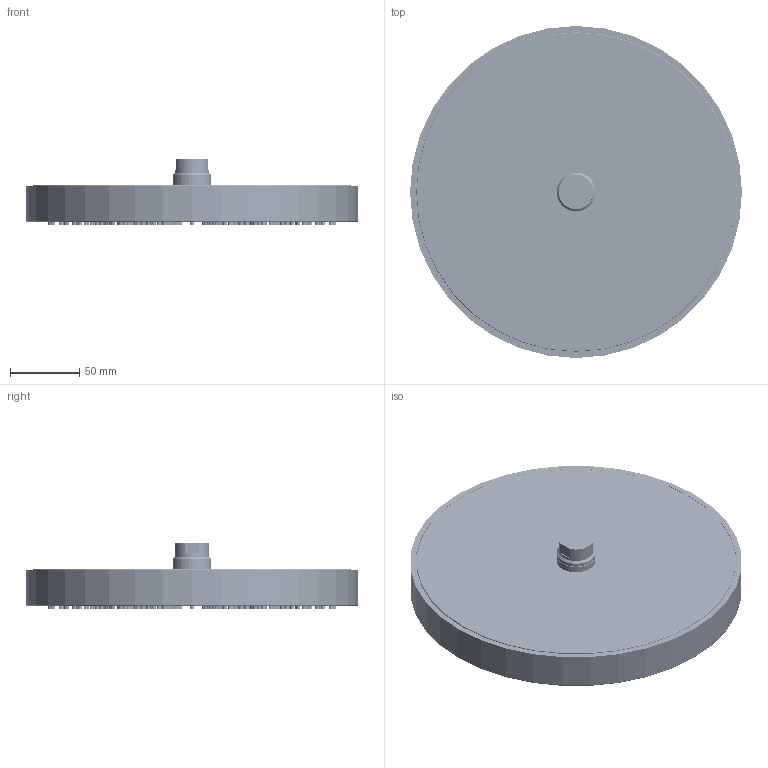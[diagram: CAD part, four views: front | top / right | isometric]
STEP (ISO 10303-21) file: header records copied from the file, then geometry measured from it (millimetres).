
FILE_DESCRIPTION((''),'2;1');
FILE_NAME('8600080830000000-015834_0_ASM','2022-06-30T15:49:39',('Elia'),(''),'CREO PARAMETRIC BY PTC INC, 2021424','CREO PARAMETRIC BY PTC INC, 2021424','');
FILE_SCHEMA(('AUTOMOTIVE_DESIGN { 1 0 10303 214 1 1 1 1 }'));
Products named in the file (6): PRODUCT_92299_1; 1; PRODUCT_92299_25; PRODUCT_92299_24; PRODUCT_92299_ASM; 8600080830000000-015834_0_ASM
Assembly tree (5 placements, depth 3):
  8600080830000000-015834_0_ASM
    PRODUCT_92299_ASM
      PRODUCT_92299_1
      1
      PRODUCT_92299_25
      PRODUCT_92299_24
Bounding box: 240 x 240 x 47.5 mm (x, y, z)
Volume: 378551.7 mm3; surface area: 369150.8 mm2
Topology: 4 solids, 4 shells, 2306 faces, 5670 edges, 3780 vertices
Faces by surface type: cylinder 1842, plane 432, cone 28, torus 4
Entity records: 73536 total; most frequent: DIRECTION 14127, CARTESIAN_POINT 12010, ORIENTED_EDGE 11340, AXIS2_PLACEMENT_3D 6103, EDGE_CURVE 5670, VERTEX_POINT 3780, CIRCLE 3744, EDGE_LOOP 3722
